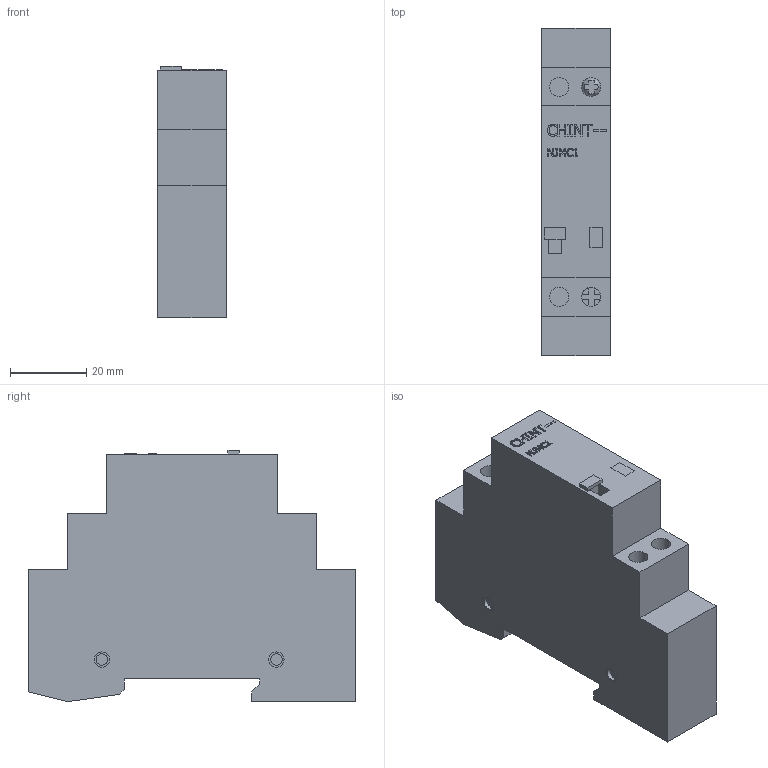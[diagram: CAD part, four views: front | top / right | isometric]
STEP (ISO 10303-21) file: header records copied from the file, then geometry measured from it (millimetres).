
FILE_DESCRIPTION(/* description */ (''),/* implementation_level */ '2;1');
FILE_NAME(/* name */ 'D:\CHINT\NJMC1\Импульсное реле NJMC1 1P (CHINT).stp',/* time_stamp */ '2017-09-30T15:33:04+04:00',/* author */ ('RSagdiev'),/* organization */ (''),/* preprocessor_version */ 'ST-DEVELOPER v16.5',/* originating_system */ 'Autodesk Inventor 2017',/* authorisation */ '');
FILE_SCHEMA (('AUTOMOTIVE_DESIGN { 1 0 10303 214 3 1 1 }'));
Length unit declared in the file: millimetre
Products named in the file (1): Импульсное \X2\0440
0435043B0435\X0\ NJMC1 1P (CHINT)
Bounding box: 18 x 86 x 66 mm (x, y, z)
Surface area: 30934.1 mm2
Topology: 11 solids, 11 shells, 304 faces, 762 edges, 519 vertices
Faces by surface type: plane 237, bspline 40, cylinder 27
Full cylindrical faces by diameter (mm): 3 x4, 4 x12, 5 x11
Entity records: 9281 total; most frequent: CARTESIAN_POINT 2261, ORIENTED_EDGE 1452, DIRECTION 1248, EDGE_CURVE 726, LINE 578, VECTOR 578, VERTEX_POINT 502, EDGE_LOOP 370
